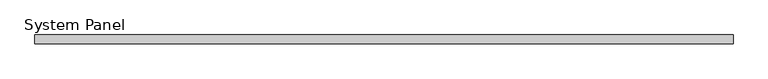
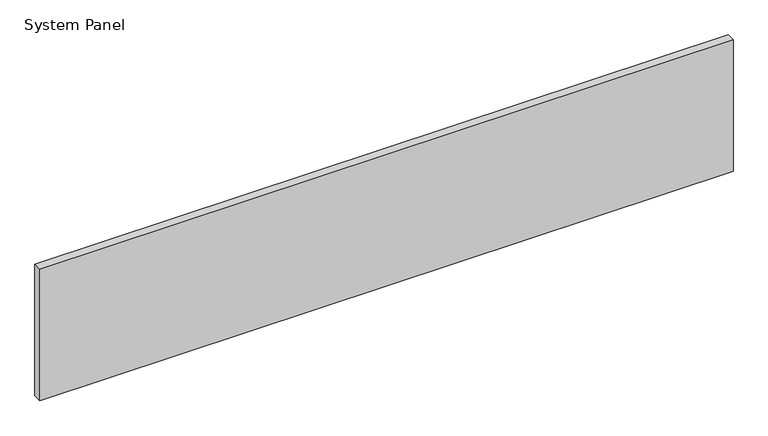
"""IFC4 building model written with IfcOpenShell, lengths in millimetres: plate geometry, System Panel : Equitilt 75mm Horizontal - Plain RHEA - EPS-FR."""

from ifc_helpers import new_model, si_unit, origin, origin_with_axes, place, context, project, spatial, polyline, outline, extrude, source, transform, mapped, element, save


def system_panel_5c141952(model_context):
    return source(origin(), model_context, "Body", "SweptSolid", [
        extrude(outline(polyline([(2995.0, 0.0), (-2995.0, 0.0), (-2995.0, 75.0), (2995.0, 75.0), (2995.0, 0.0)])), origin_with_axes(), (0.0, 0.0, 1.0), 1200.0),
    ])


if __name__ == "__main__":
    model = new_model("IFC4")
    model_context = context("Model", 3, world=origin())
    ifc_project = project(units=[si_unit("LENGTHUNIT", "METRE", prefix="MILLI")], contexts=[model_context])
    site = spatial("IfcSite", under=ifc_project)
    building = spatial("IfcBuilding", under=site)
    placement = place(None, origin())
    system_panel_shape = system_panel_5c141952(model_context)
    element("IfcPlate", 1, ObjectType="System Panel : Equitilt 75mm Horizontal - Plain RHEA - EPS-FR", at=placement, inside=building, context=model_context, shape_type="MappedRepresentation", body=[
        mapped(system_panel_shape, transform((0.0, 0.0, 0.0), x_axis=(1.0, 0.0, 0.0), y_axis=(0.0, 1.0, 0.0), z_axis=(0.0, 0.0, 1.0))),
    ])
    save(model, "model.ifc")
